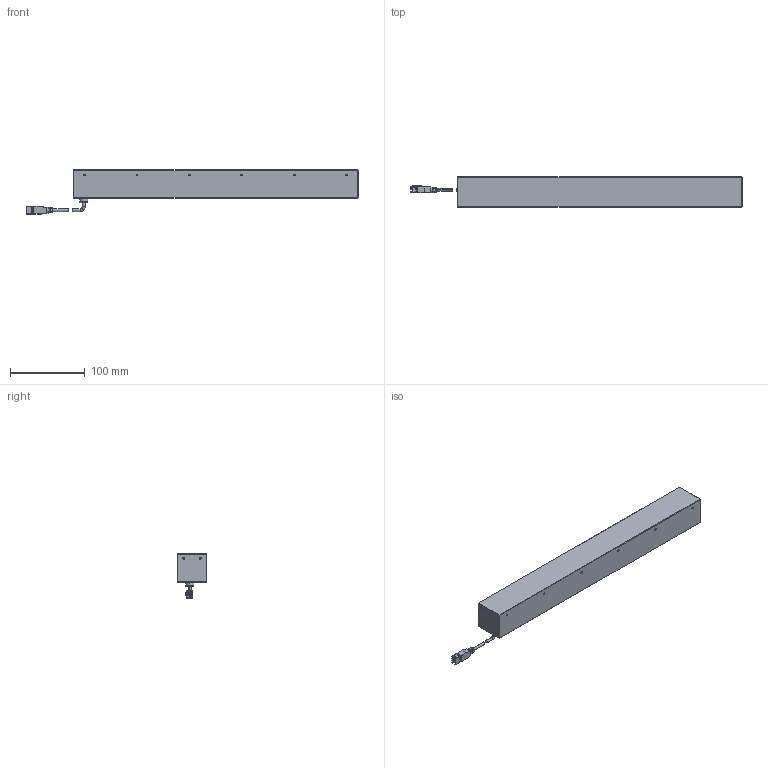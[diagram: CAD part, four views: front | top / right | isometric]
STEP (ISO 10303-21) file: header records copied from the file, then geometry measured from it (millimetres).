
FILE_DESCRIPTION((''),'2;1');
FILE_NAME('JIANYIMOXING_ASM','2014-10-15T',('admin'),(''),'PRO/ENGINEER BY PARAMETRIC TECHNOLOGY CORPORATION, 2011220','PRO/ENGINEER BY PARAMETRIC TECHNOLOGY CORPORATION, 2011220','');
FILE_SCHEMA(('CONFIG_CONTROL_DESIGN'));
Length unit declared in the file: millimetre
Products named in the file (5): JIANYI; LINE_TOU; BODY_12; ASSY_ASM; JIANYIMOXING_ASM
Assembly tree (4 placements, depth 3):
  JIANYIMOXING_ASM
    JIANYI
    ASSY_ASM
      LINE_TOU
      BODY_12
Bounding box: 443.1 x 40 x 59.25 mm (x, y, z)
Volume: 579908.6 mm3; surface area: 65077.2 mm2
Topology: 3 solids, 3 shells, 312 faces, 782 edges, 471 vertices
Faces by surface type: plane 147, cylinder 101, cone 34, torus 14, bspline 8, sphere 8
Entity records: 9340 total; most frequent: CARTESIAN_POINT 1851, DIRECTION 1582, ORIENTED_EDGE 1500, EDGE_CURVE 750, AXIS2_PLACEMENT_3D 551, VECTOR 480, LINE 480, VERTEX_POINT 471
